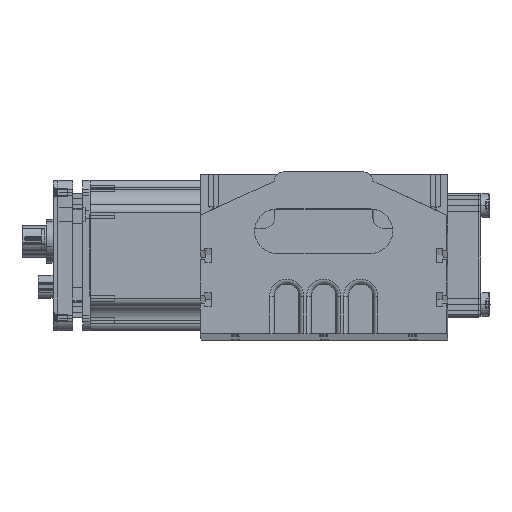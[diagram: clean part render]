
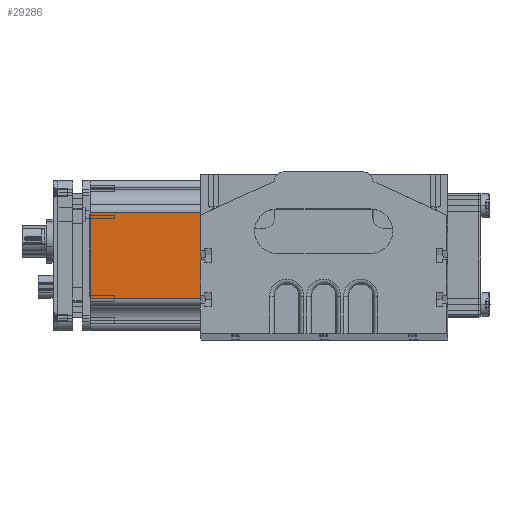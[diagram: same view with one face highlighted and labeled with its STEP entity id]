
A CAD part, top view. The second image highlights one B-rep face of the part: STEP entity #29286.
In plain terms, the highlighted planar face has unit normal (0, 0, 1).
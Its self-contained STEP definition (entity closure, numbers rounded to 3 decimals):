
#5755 = CARTESIAN_POINT ( 'NONE',  ( -24.5, 7., 30.5 ) ) ;
#5801 = DIRECTION ( 'NONE',  ( 1., 0., 0. ) ) ;
#5802 = VECTOR ( 'NONE', #5801, 1000. ) ;
#5807 = CARTESIAN_POINT ( 'NONE',  ( -24.5, 7., 30.5 ) ) ;
#5808 = LINE ( 'NONE', #5807, #5802 ) ;
#5917 = CARTESIAN_POINT ( 'NONE',  ( -17.5, 7., 30.5 ) ) ;
#6558 = DIRECTION ( 'NONE',  ( 0., 1., 0. ) ) ;
#6567 = VECTOR ( 'NONE', #6558, 1000. ) ;
#6568 = CARTESIAN_POINT ( 'NONE',  ( -24.5, 7., 30.5 ) ) ;
#6569 = LINE ( 'NONE', #6568, #6567 ) ;
#6574 = CARTESIAN_POINT ( 'NONE',  ( -24.5, 0., 30.5 ) ) ;
#8252 = FACE_OUTER_BOUND ( 'NONE', #29235, .T. ) ;
#8262 = PLANE ( 'NONE',  #8267 ) ;
#8263 = CARTESIAN_POINT ( 'NONE',  ( 24.5, 7., 30.5 ) ) ;
#8267 = AXIS2_PLACEMENT_3D ( 'NONE', #8307, #8306, #8305 ) ;
#8305 = DIRECTION ( 'NONE',  ( -1., 0., 0. ) ) ;
#8306 = DIRECTION ( 'NONE',  ( 0., 0., -1. ) ) ;
#8307 = CARTESIAN_POINT ( 'NONE',  ( -24.5, 7., 30.5 ) ) ;
#8309 = CARTESIAN_POINT ( 'NONE',  ( 17.5, 94., 30.5 ) ) ;
#8313 = CARTESIAN_POINT ( 'NONE',  ( -17.5, 94., 30.5 ) ) ;
#8331 = DIRECTION ( 'NONE',  ( 0., 1., 0. ) ) ;
#8332 = VECTOR ( 'NONE', #8331, 1000. ) ;
#8339 = CARTESIAN_POINT ( 'NONE',  ( -17.5, 7., 30.5 ) ) ;
#8340 = LINE ( 'NONE', #8339, #8332 ) ;
#8341 = DIRECTION ( 'NONE',  ( 1., 0., 0. ) ) ;
#8342 = VECTOR ( 'NONE', #8341, 1000. ) ;
#8351 = CARTESIAN_POINT ( 'NONE',  ( -24.5, 0., 30.5 ) ) ;
#8352 = LINE ( 'NONE', #8351, #8342 ) ;
#8386 = CARTESIAN_POINT ( 'NONE',  ( 24.5, 7., 30.5 ) ) ;
#8387 = LINE ( 'NONE', #8386, #8439 ) ;
#8390 = DIRECTION ( 'NONE',  ( 1., 0., 0. ) ) ;
#8391 = VECTOR ( 'NONE', #8390, 1000. ) ;
#8392 = CARTESIAN_POINT ( 'NONE',  ( -24.5, 7., 30.5 ) ) ;
#8393 = LINE ( 'NONE', #8392, #8391 ) ;
#8401 = DIRECTION ( 'NONE',  ( 0., -1., 0. ) ) ;
#8402 = VECTOR ( 'NONE', #8401, 1000. ) ;
#8403 = CARTESIAN_POINT ( 'NONE',  ( 17.5, 95.35, 30.5 ) ) ;
#8404 = LINE ( 'NONE', #8403, #8402 ) ;
#8412 = CARTESIAN_POINT ( 'NONE',  ( 17.5, 7., 30.5 ) ) ;
#8438 = DIRECTION ( 'NONE',  ( 0., -1., 0. ) ) ;
#8439 = VECTOR ( 'NONE', #8438, 1000. ) ;
#8480 = CARTESIAN_POINT ( 'NONE',  ( 24.5, 0., 30.5 ) ) ;
#8508 = DIRECTION ( 'NONE',  ( 1., 0., 0. ) ) ;
#8509 = VECTOR ( 'NONE', #8508, 1000. ) ;
#8512 = CARTESIAN_POINT ( 'NONE',  ( 26.5, 94., 30.5 ) ) ;
#8513 = LINE ( 'NONE', #8512, #8509 ) ;
#27860 = VERTEX_POINT ( 'NONE', #5755 ) ;
#27919 = EDGE_CURVE ( 'NONE', #27860, #27967, #5808, .T. ) ;
#27967 = VERTEX_POINT ( 'NONE', #5917 ) ;
#28317 = VERTEX_POINT ( 'NONE', #6574 ) ;
#28319 = EDGE_CURVE ( 'NONE', #28317, #27860, #6569, .T. ) ;
#29054 = ORIENTED_EDGE ( 'NONE', *, *, #29313, .F. ) ;
#29235 = EDGE_LOOP ( 'NONE', ( #29054, #29303, #29377, #29292, #29323, #29363, #29304, #29425 ) ) ;
#29275 = VERTEX_POINT ( 'NONE', #8263 ) ;
#29286 = ADVANCED_FACE ( 'NONE', ( #8252 ), #8262, .F. ) ;
#29287 = VERTEX_POINT ( 'NONE', #8309 ) ;
#29291 = VERTEX_POINT ( 'NONE', #8313 ) ;
#29292 = ORIENTED_EDGE ( 'NONE', *, *, #29310, .T. ) ;
#29303 = ORIENTED_EDGE ( 'NONE', *, *, #27919, .F. ) ;
#29304 = ORIENTED_EDGE ( 'NONE', *, *, #29350, .F. ) ;
#29310 = EDGE_CURVE ( 'NONE', #28317, #29391, #8352, .T. ) ;
#29313 = EDGE_CURVE ( 'NONE', #27967, #29291, #8340, .T. ) ;
#29323 = ORIENTED_EDGE ( 'NONE', *, *, #29364, .F. ) ;
#29350 = EDGE_CURVE ( 'NONE', #29287, #29355, #8404, .T. ) ;
#29355 = VERTEX_POINT ( 'NONE', #8412 ) ;
#29356 = EDGE_CURVE ( 'NONE', #29355, #29275, #8393, .T. ) ;
#29363 = ORIENTED_EDGE ( 'NONE', *, *, #29356, .F. ) ;
#29364 = EDGE_CURVE ( 'NONE', #29275, #29391, #8387, .T. ) ;
#29377 = ORIENTED_EDGE ( 'NONE', *, *, #28319, .F. ) ;
#29391 = VERTEX_POINT ( 'NONE', #8480 ) ;
#29418 = EDGE_CURVE ( 'NONE', #29291, #29287, #8513, .T. ) ;
#29425 = ORIENTED_EDGE ( 'NONE', *, *, #29418, .F. ) ;
